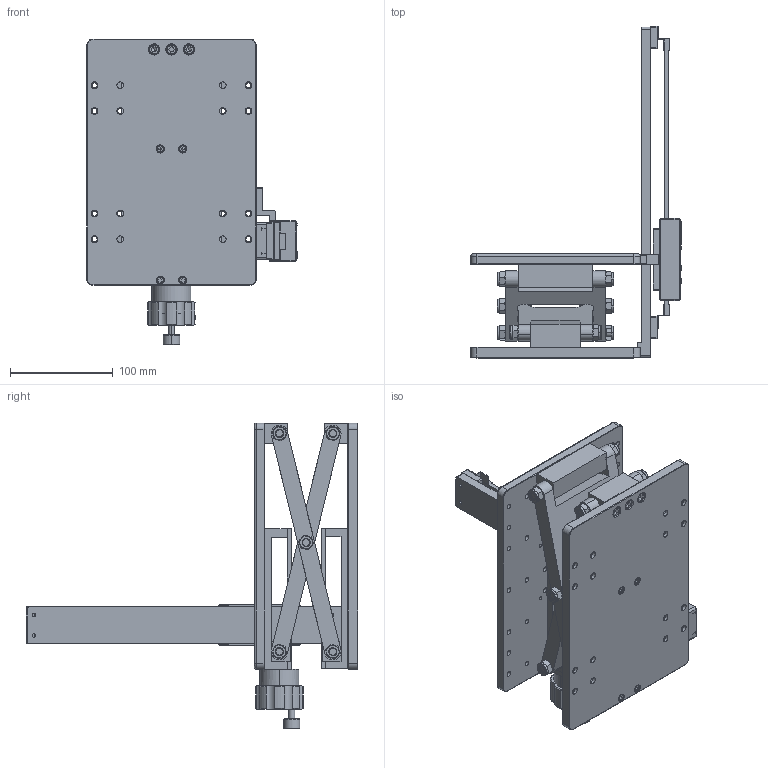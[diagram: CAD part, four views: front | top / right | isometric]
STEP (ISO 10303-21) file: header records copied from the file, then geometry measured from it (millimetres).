
FILE_DESCRIPTION (( 'STEP AP203' ), '1' );
FILE_NAME ('手动升降台：ZT410MS120.STEP', '2022-07-29T02:19:20', ( '' ), ( '' ), 'SwSTEP 2.0', 'SolidWorks 2016', '' );
FILE_SCHEMA (( 'CONFIG_CONTROL_DESIGN' ));
Length unit declared in the file: millimetre
Products named in the file (1): 手动升降台：ZT410MS120
Bounding box: 205 x 323.5 x 298 mm (x, y, z)
Surface area: 385793.2 mm2 (no closed solid volume)
Topology: 0 solids, 70 shells, 933 faces, 2798 edges, 1919 vertices
Faces by surface type: plane 407, cylinder 344, cone 130, torus 52
Entity records: 32325 total; most frequent: CARTESIAN_POINT 6405, DIRECTION 5658, ORIENTED_EDGE 4737, EDGE_CURVE 2778, AXIS2_PLACEMENT_3D 2148, VERTEX_POINT 1919, VECTOR 1362, LINE 1362
